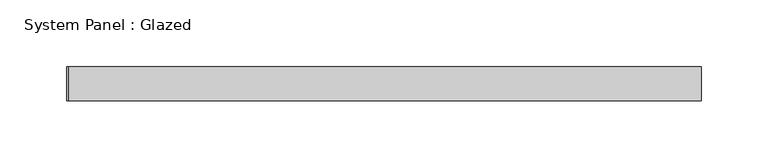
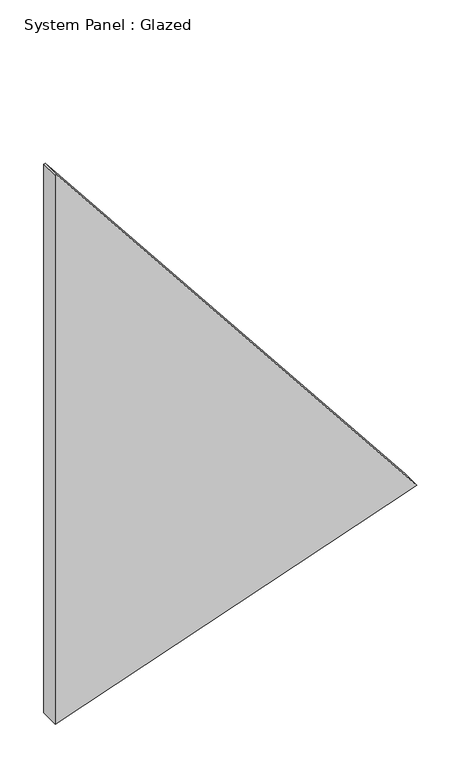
"""IFC4 building model written with IfcOpenShell, lengths in millimetres: plate geometry, System Panel : Glazed."""

from ifc_helpers import new_model, si_unit, frame, origin, place, context, project, spatial, polyline, outline, extrude, source, transform, mapped, element, save


def system_panel_glazed_a31f133a(model_context):
    return source(origin(), model_context, "Body", "SweptSolid", [
        extrude(outline(polyline([(0.0, -237.6758318), (165.5137229, 237.6820292), (763.3943351, -236.0989332), (762.8431207, -237.6820292), (0.0, -237.6758318)])), frame((0.0, -44.45, 0.0), z_axis=(0.0, 1.0, 0.0), x_axis=(0.0, 0.0, 1.0)), (0.0, 0.0, 1.0), 25.4),
    ])


if __name__ == "__main__":
    model = new_model("IFC4")
    model_context = context("Model", 3, world=origin())
    ifc_project = project(units=[si_unit("LENGTHUNIT", "METRE", prefix="MILLI")], contexts=[model_context])
    site = spatial("IfcSite", under=ifc_project)
    building = spatial("IfcBuilding", under=site)
    placement = place(None, origin())
    system_panel_glazed_shape = system_panel_glazed_a31f133a(model_context)
    element("IfcPlate", 1, ObjectType="System Panel : Glazed", at=placement, inside=building, context=model_context, shape_type="MappedRepresentation", body=[
        mapped(system_panel_glazed_shape, transform((0.0, 0.0, 0.0), x_axis=(1.0, 0.0, 0.0), y_axis=(0.0, 1.0, 0.0), z_axis=(0.0, 0.0, 1.0))),
    ])
    save(model, "model.ifc")
